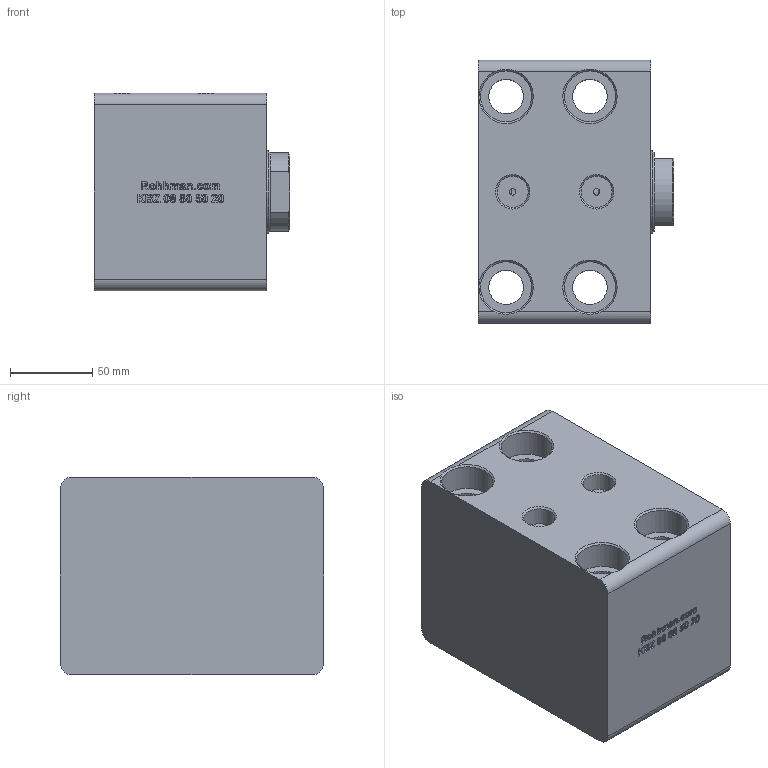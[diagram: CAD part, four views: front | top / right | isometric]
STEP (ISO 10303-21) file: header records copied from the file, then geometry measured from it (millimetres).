
FILE_DESCRIPTION(/* description */ (''),/* implementation_level */ '2;1');
FILE_NAME(/* name */ 'KBZ_08_80_50_20_WEB.step',/* time_stamp */ '2023-09-05T16:43:24+03:00',/* author */ (''),/* organization */ (''),/* preprocessor_version */ 'ST-DEVELOPER v20',/* originating_system */ 'Autodesk Translation Framework v12.9.0.99',/* authorisation */ '');
FILE_SCHEMA (('AUTOMOTIVE_DESIGN { 1 0 10303 214 3 1 1 }'));
Length unit declared in the file: millimetre
Products named in the file (6): KBZ_08_80_50_100_MONTAJ; KAPAK; KAPAK_1; GÖVDE; GÖVDE_1; Ø50_MİL
Assembly tree (5 placements, depth 3):
  KBZ_08_80_50_100_MONTAJ
    KAPAK
      KAPAK_1
    GÖVDE
      GÖVDE_1
    Ø50_MİL
Bounding box: 119 x 160 x 120 mm (x, y, z)
Volume: 1570902.8 mm3; surface area: 194321 mm2
Topology: 3 solids, 3 shells, 587 faces, 1598 edges, 1059 vertices
Faces by surface type: bspline 367, plane 174, cylinder 28, cone 18
Full cylindrical faces by diameter (mm): 4 x2, 5 x2, 18.901 x2, 21 x4, 26.491 x1, 31 x4, 50 x1, 50.5 x1, 80 x1, 85 x2, 100 x2
Entity records: 22142 total; most frequent: CARTESIAN_POINT 9608, ORIENTED_EDGE 3196, EDGE_CURVE 1598, DIRECTION 1396, VERTEX_POINT 1059, LINE 768, VECTOR 768, B_SPLINE_CURVE_WITH_KNOTS 744
